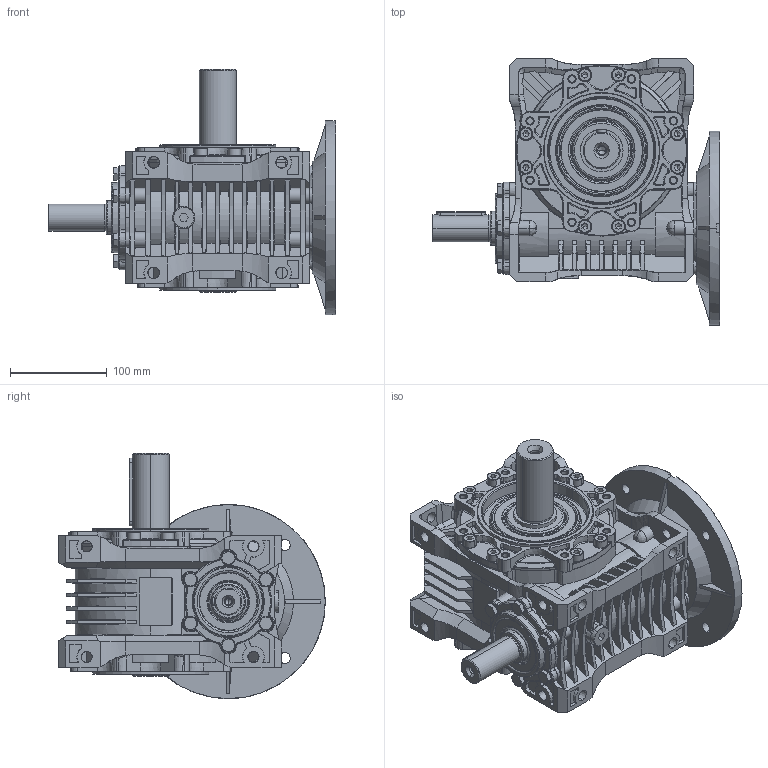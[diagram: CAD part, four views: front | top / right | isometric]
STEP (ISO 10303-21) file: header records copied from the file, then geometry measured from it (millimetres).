
FILE_DESCRIPTION (( 'STEP AP203' ), '1' );
FILE_NAME ('MR-80_200-24-WBS-WJ_2-3D.STEP', '2024-05-07T09:17:01', ( '' ), ( '' ), 'SwSTEP 2.0', 'SolidWorks 2022', '' );
FILE_SCHEMA (( 'CONFIG_CONTROL_DESIGN' ));
Length unit declared in the file: millimetre
Products named in the file (1): MR-80_200-24-WBS-WJ_2-3D
Bounding box: 297 x 275.23 x 253.18 mm (x, y, z)
Volume: 4549645.6 mm3; surface area: 511760.7 mm2
Topology: 1 solids, 40 shells, 3225 faces, 8420 edges, 5315 vertices
Faces by surface type: plane 1243, cone 961, cylinder 448, bspline 298, torus 275
Entity records: 112347 total; most frequent: CARTESIAN_POINT 36539, ORIENTED_EDGE 16594, DIRECTION 15089, EDGE_CURVE 8297, AXIS2_PLACEMENT_3D 5796, VERTEX_POINT 5315, VECTOR 3497, LINE 3497
